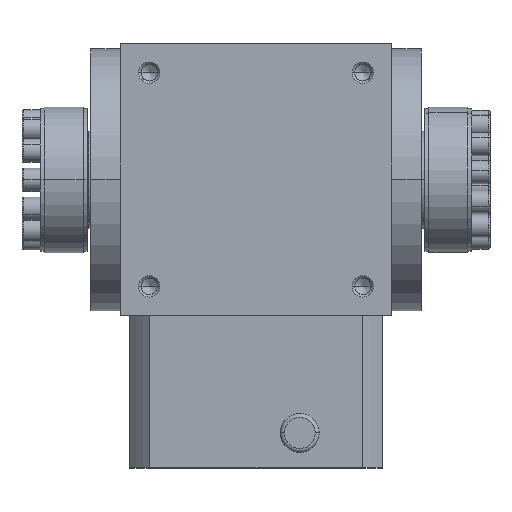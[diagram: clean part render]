
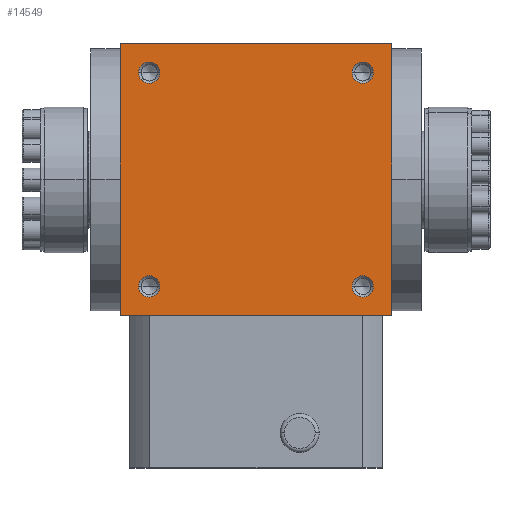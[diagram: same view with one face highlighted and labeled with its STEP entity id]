
A CAD part, top view. The second image highlights one B-rep face of the part: STEP entity #14549.
In plain terms, the highlighted planar face has unit normal (0, 0, 1).
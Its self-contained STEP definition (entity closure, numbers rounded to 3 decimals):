
#71 = CARTESIAN_POINT ( 'NONE',  ( -8.112, 97.742, 344. ) ) ;
#292 = CARTESIAN_POINT ( 'NONE',  ( -2.612, -12.258, 344. ) ) ;
#394 = DIRECTION ( 'NONE',  ( 0., 0., 1. ) ) ;
#609 = VERTEX_POINT ( 'NONE', #17003 ) ;
#725 = CARTESIAN_POINT ( 'NONE',  ( 2.888, 97.742, 344. ) ) ;
#1277 = ORIENTED_EDGE ( 'NONE', *, *, #7082, .T. ) ;
#1561 = CARTESIAN_POINT ( 'NONE',  ( -2.612, -12.258, 344. ) ) ;
#2063 = VERTEX_POINT ( 'NONE', #9423 ) ;
#2231 = DIRECTION ( 'NONE',  ( 0., 0., 1. ) ) ;
#2877 = CARTESIAN_POINT ( 'NONE',  ( -57.612, 42.742, 344. ) ) ;
#3342 = CARTESIAN_POINT ( 'NONE',  ( 12.388, -27.258, 344. ) ) ;
#4334 = ORIENTED_EDGE ( 'NONE', *, *, #11746, .T. ) ;
#4394 = ORIENTED_EDGE ( 'NONE', *, *, #20162, .F. ) ;
#5456 = AXIS2_PLACEMENT_3D ( 'NONE', #2877, #20916, #16330 ) ;
#5461 = ORIENTED_EDGE ( 'NONE', *, *, #13095, .F. ) ;
#5524 = PLANE ( 'NONE',  #5456 ) ;
#5670 = FACE_BOUND ( 'NONE', #7211, .T. ) ;
#5706 = DIRECTION ( 'NONE',  ( 0., 0., 1. ) ) ;
#5782 = CARTESIAN_POINT ( 'NONE',  ( -107.112, 97.742, 344. ) ) ;
#5929 = AXIS2_PLACEMENT_3D ( 'NONE', #6909, #394, #27470 ) ;
#6533 = DIRECTION ( 'NONE',  ( 0., 0., 1. ) ) ;
#6611 = ORIENTED_EDGE ( 'NONE', *, *, #15323, .F. ) ;
#6624 = DIRECTION ( 'NONE',  ( 1., 0., 0. ) ) ;
#6739 = DIRECTION ( 'NONE',  ( 1., 0., 0. ) ) ;
#6909 = CARTESIAN_POINT ( 'NONE',  ( -112.612, 97.742, 344. ) ) ;
#6950 = DIRECTION ( 'NONE',  ( 1., 0., 0. ) ) ;
#7082 = EDGE_CURVE ( 'NONE', #16663, #8462, #25842, .T. ) ;
#7196 = CARTESIAN_POINT ( 'NONE',  ( 12.388, 112.742, 344. ) ) ;
#7211 = EDGE_LOOP ( 'NONE', ( #26393, #24401 ) ) ;
#7294 = FACE_BOUND ( 'NONE', #12952, .T. ) ;
#7891 = CARTESIAN_POINT ( 'NONE',  ( -127.612, 112.742, 344. ) ) ;
#8186 = VECTOR ( 'NONE', #27924, 1000. ) ;
#8335 = AXIS2_PLACEMENT_3D ( 'NONE', #11913, #9986, #14287 ) ;
#8462 = VERTEX_POINT ( 'NONE', #14303 ) ;
#9423 = CARTESIAN_POINT ( 'NONE',  ( -118.112, -12.258, 344. ) ) ;
#9540 = DIRECTION ( 'NONE',  ( 0., 0., 1. ) ) ;
#9986 = DIRECTION ( 'NONE',  ( 0., 0., 1. ) ) ;
#10043 = CIRCLE ( 'NONE', #16211, 5.5 ) ;
#10048 = EDGE_LOOP ( 'NONE', ( #4394, #6611 ) ) ;
#10083 = VERTEX_POINT ( 'NONE', #3342 ) ;
#10283 = AXIS2_PLACEMENT_3D ( 'NONE', #13328, #6533, #10958 ) ;
#10395 = EDGE_CURVE ( 'NONE', #8462, #10083, #25064, .T. ) ;
#10958 = DIRECTION ( 'NONE',  ( 1., 0., 0. ) ) ;
#11032 = ORIENTED_EDGE ( 'NONE', *, *, #20514, .F. ) ;
#11746 = EDGE_CURVE ( 'NONE', #28284, #16663, #25648, .T. ) ;
#11790 = CARTESIAN_POINT ( 'NONE',  ( -112.612, -12.258, 344. ) ) ;
#11913 = CARTESIAN_POINT ( 'NONE',  ( -2.612, 97.742, 344. ) ) ;
#12269 = VERTEX_POINT ( 'NONE', #14347 ) ;
#12952 = EDGE_LOOP ( 'NONE', ( #24905, #25788 ) ) ;
#13095 = EDGE_CURVE ( 'NONE', #18070, #609, #13243, .T. ) ;
#13243 = CIRCLE ( 'NONE', #19403, 5.5 ) ;
#13328 = CARTESIAN_POINT ( 'NONE',  ( -112.612, 97.742, 344. ) ) ;
#13644 = LINE ( 'NONE', #17963, #20217 ) ;
#13932 = CIRCLE ( 'NONE', #28606, 5.5 ) ;
#13989 = EDGE_CURVE ( 'NONE', #15100, #12269, #29088, .T. ) ;
#14062 = CARTESIAN_POINT ( 'NONE',  ( -107.112, -12.258, 344. ) ) ;
#14086 = EDGE_CURVE ( 'NONE', #2063, #28623, #13932, .T. ) ;
#14287 = DIRECTION ( 'NONE',  ( 1., 0., 0. ) ) ;
#14303 = CARTESIAN_POINT ( 'NONE',  ( -127.612, -27.258, 344. ) ) ;
#14347 = CARTESIAN_POINT ( 'NONE',  ( -118.112, 97.742, 344. ) ) ;
#14375 = VERTEX_POINT ( 'NONE', #71 ) ;
#14393 = DIRECTION ( 'NONE',  ( -1., 0., 0. ) ) ;
#14544 = FACE_OUTER_BOUND ( 'NONE', #16032, .T. ) ;
#14549 = ADVANCED_FACE ( 'NONE', ( #28162, #5670, #7294, #25651, #14544 ), #5524, .T. ) ;
#15100 = VERTEX_POINT ( 'NONE', #5782 ) ;
#15323 = EDGE_CURVE ( 'NONE', #14375, #20630, #22057, .T. ) ;
#15456 = DIRECTION ( 'NONE',  ( 1., 0., 0. ) ) ;
#15609 = VECTOR ( 'NONE', #14393, 1000. ) ;
#15619 = DIRECTION ( 'NONE',  ( 0., 0., 1. ) ) ;
#16032 = EDGE_LOOP ( 'NONE', ( #1277, #26575, #22752, #4334 ) ) ;
#16211 = AXIS2_PLACEMENT_3D ( 'NONE', #11790, #25278, #27199 ) ;
#16330 = DIRECTION ( 'NONE',  ( 1., 0., 0. ) ) ;
#16424 = EDGE_LOOP ( 'NONE', ( #11032, #5461 ) ) ;
#16663 = VERTEX_POINT ( 'NONE', #7891 ) ;
#16773 = CARTESIAN_POINT ( 'NONE',  ( -127.612, 112.742, 344. ) ) ;
#17003 = CARTESIAN_POINT ( 'NONE',  ( 2.888, -12.258, 344. ) ) ;
#17238 = CIRCLE ( 'NONE', #18199, 5.5 ) ;
#17697 = AXIS2_PLACEMENT_3D ( 'NONE', #27144, #15619, #6739 ) ;
#17963 = CARTESIAN_POINT ( 'NONE',  ( 12.388, 112.742, 344. ) ) ;
#18070 = VERTEX_POINT ( 'NONE', #28360 ) ;
#18199 = AXIS2_PLACEMENT_3D ( 'NONE', #292, #2231, #6950 ) ;
#18507 = VECTOR ( 'NONE', #15456, 1000. ) ;
#18898 = CARTESIAN_POINT ( 'NONE',  ( -127.612, 112.742, 344. ) ) ;
#19078 = EDGE_CURVE ( 'NONE', #28623, #2063, #10043, .T. ) ;
#19403 = AXIS2_PLACEMENT_3D ( 'NONE', #1561, #5706, #26407 ) ;
#19587 = CIRCLE ( 'NONE', #17697, 5.5 ) ;
#20162 = EDGE_CURVE ( 'NONE', #20630, #14375, #19587, .T. ) ;
#20217 = VECTOR ( 'NONE', #22388, 1000. ) ;
#20514 = EDGE_CURVE ( 'NONE', #609, #18070, #17238, .T. ) ;
#20630 = VERTEX_POINT ( 'NONE', #725 ) ;
#20804 = CARTESIAN_POINT ( 'NONE',  ( -112.612, -12.258, 344. ) ) ;
#20916 = DIRECTION ( 'NONE',  ( 0., 0., 1. ) ) ;
#22057 = CIRCLE ( 'NONE', #8335, 5.5 ) ;
#22122 = CIRCLE ( 'NONE', #10283, 5.5 ) ;
#22388 = DIRECTION ( 'NONE',  ( 0., 1., 0. ) ) ;
#22752 = ORIENTED_EDGE ( 'NONE', *, *, #23125, .T. ) ;
#23125 = EDGE_CURVE ( 'NONE', #10083, #28284, #13644, .T. ) ;
#23432 = EDGE_CURVE ( 'NONE', #12269, #15100, #22122, .T. ) ;
#24401 = ORIENTED_EDGE ( 'NONE', *, *, #23432, .F. ) ;
#24905 = ORIENTED_EDGE ( 'NONE', *, *, #19078, .F. ) ;
#25064 = LINE ( 'NONE', #26987, #18507 ) ;
#25278 = DIRECTION ( 'NONE',  ( 0., 0., 1. ) ) ;
#25648 = LINE ( 'NONE', #16773, #15609 ) ;
#25651 = FACE_BOUND ( 'NONE', #10048, .T. ) ;
#25788 = ORIENTED_EDGE ( 'NONE', *, *, #14086, .F. ) ;
#25842 = LINE ( 'NONE', #18898, #8186 ) ;
#26393 = ORIENTED_EDGE ( 'NONE', *, *, #13989, .F. ) ;
#26407 = DIRECTION ( 'NONE',  ( 1., 0., 0. ) ) ;
#26575 = ORIENTED_EDGE ( 'NONE', *, *, #10395, .T. ) ;
#26987 = CARTESIAN_POINT ( 'NONE',  ( -127.612, -27.258, 344. ) ) ;
#27144 = CARTESIAN_POINT ( 'NONE',  ( -2.612, 97.742, 344. ) ) ;
#27199 = DIRECTION ( 'NONE',  ( 1., 0., 0. ) ) ;
#27470 = DIRECTION ( 'NONE',  ( 1., 0., 0. ) ) ;
#27924 = DIRECTION ( 'NONE',  ( 0., -1., 0. ) ) ;
#28162 = FACE_BOUND ( 'NONE', #16424, .T. ) ;
#28284 = VERTEX_POINT ( 'NONE', #7196 ) ;
#28360 = CARTESIAN_POINT ( 'NONE',  ( -8.112, -12.258, 344. ) ) ;
#28606 = AXIS2_PLACEMENT_3D ( 'NONE', #20804, #9540, #6624 ) ;
#28623 = VERTEX_POINT ( 'NONE', #14062 ) ;
#29088 = CIRCLE ( 'NONE', #5929, 5.5 ) ;
